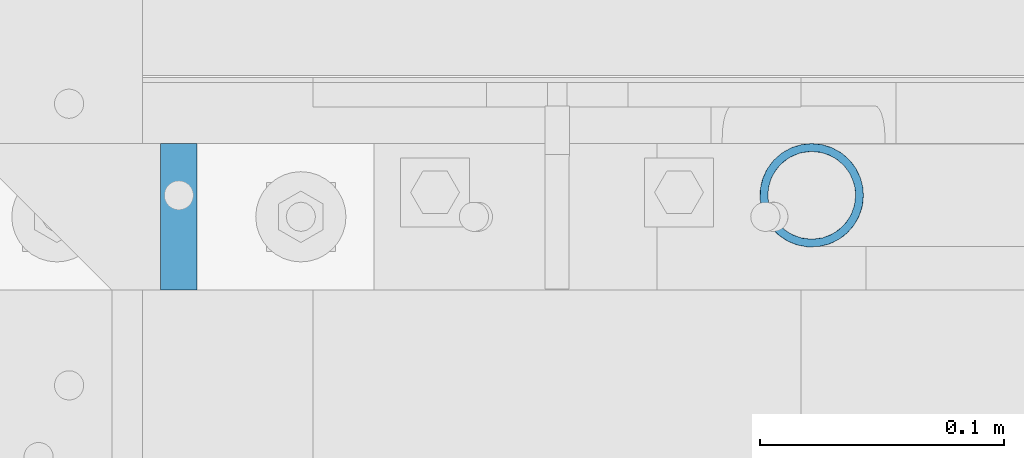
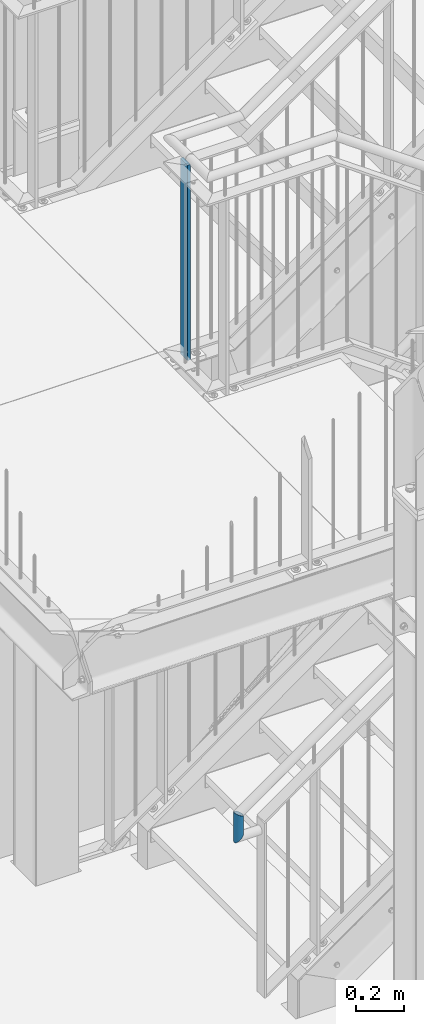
# One storey, part 20 of 831: 2 columns.
"""IFC2X3 building model written with IfcOpenShell, lengths in millimetres."""

from ifc_helpers import new_model, entity, si_unit, converted_unit, frame, origin, origin_with_axes, origin_2d, place, context, project, spatial, rectangle, hollow_circle, extrude, clip, halfspace, material, element, save


model = new_model("IFC2X3")

# Units and contexts
model_context = context("Model", 3, precision=1e-09, world=origin_with_axes())
ifc_project = project(units=[si_unit("LENGTHUNIT", "METRE", prefix="MILLI"), si_unit("AREAUNIT", "SQUARE_METRE"), si_unit("VOLUMEUNIT", "CUBIC_METRE"), converted_unit("PLANEANGLEUNIT", "DEGREE", entity("IfcPlaneAngleMeasure", 0.01745329), si_unit("PLANEANGLEUNIT", "RADIAN"), dimensions=[0, 0, 0, 0, 0, 0, 0])], contexts=[model_context])

# Site, building, storey
site_placement = place(None, origin_with_axes())
site = spatial("IfcSite", under=ifc_project, at=site_placement, Name="Site", CompositionType="ELEMENT")
building_placement = place(site_placement, origin_with_axes())
building = spatial("IfcBuilding", under=site, at=building_placement, Name="Struktur 1", CompositionType="ELEMENT")
storey_placement = place(building_placement, origin_with_axes())
storey = spatial("IfcBuildingStorey", under=building, at=storey_placement, Name="Default Storey", CompositionType="ELEMENT", Elevation=0.0)

# Columns
ifc_material = material(Name="S235JR")
column_1_placement = place(None, frame((4961.101665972, 6100.536971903, 1298.8000007), z_axis=(0.0, 0.0, -1.0), x_axis=(1.0, 0.0, 0.0)))
element("IfcColumn", 1, at=column_1_placement, inside=storey, material=ifc_material, Name="Railing_Handrail_Landing#0", ObjectType="Railing_Handrail_Landing#0", context=model_context, shape_type="Clipping", body=[
    clip(clip(extrude(hollow_circle(Radius=21.2, WallThickness=3.2, at=origin_2d()), origin(), (0.0, 0.0, -1.0), 193.817233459), halfspace(frame((-3324.976639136, 6100.536971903, -1874.443088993), z_axis=(-0.458271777, 0.0, 0.888812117), x_axis=(0.0, 1.0, 0.0)), True)), halfspace(frame((-3151.151540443, 6100.536971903, 3108.750126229), z_axis=(-0.707106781, 0.0, -0.707106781), x_axis=(0.0, 1.0, 0.0)), True)),
])
column_2_placement = place(None, frame((4701.713402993, 6091.736971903, 4886.723292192), z_axis=(0.0, 0.0, 1.0), x_axis=(1.0, 0.0, 0.0)))
element("IfcColumn", 2, at=column_2_placement, inside=storey, material=ifc_material, Name="Railing_Post_Landing#0", ObjectType="Railing_Post_Landing#0", context=model_context, shape_type="Clipping", body=[
    clip(clip(extrude(rectangle(XDim=15.0, YDim=60.0, at=origin_2d()), origin(), (0.0, 0.0, -1.0), 1070.646584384), halfspace(frame((-4701.713402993, -6091.736971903, -1019.722292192), z_axis=(0.0, 0.0, 1.0), x_axis=(1.0, 0.0, 0.0)), True)), halfspace(frame((-4701.713402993, -6091.736971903, -30.924292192), z_axis=(0.0, 0.0, -1.0), x_axis=(-1.0, 0.0, 0.0)), True)),
])

save(model, "model.ifc")
